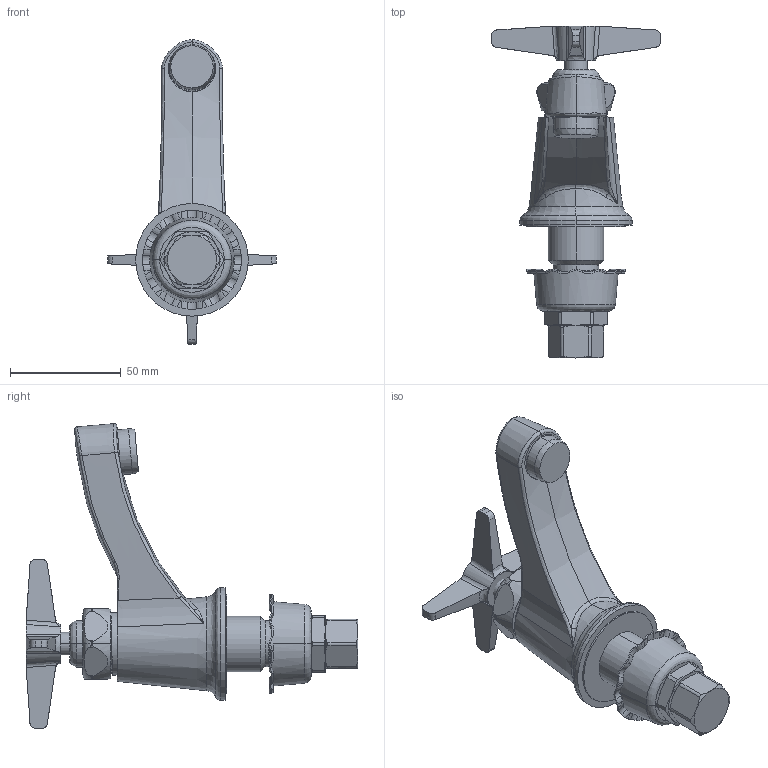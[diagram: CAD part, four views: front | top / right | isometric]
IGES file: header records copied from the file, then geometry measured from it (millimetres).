
Start section:  PTC IGES file: 701-ab_SCHEDULE_REV062817.igs
Global section: file name: 701-ab_SCHEDULE_REV062817.igs; native system: Creo Parametric by PTC Inc.; preprocessor: 2014500; author: dmisv; organization: Unknown; date: 20170629.103147; units: inch
Bounding box: 76.19 x 149.67 x 137.38 mm (x, y, z)
Surface area: 42142.1 mm2 (no closed solid volume)
Topology: 0 solids, 14 shells, 377 faces, 1109 edges, 724 vertices
Faces by surface type: revolution 254, bspline 123
